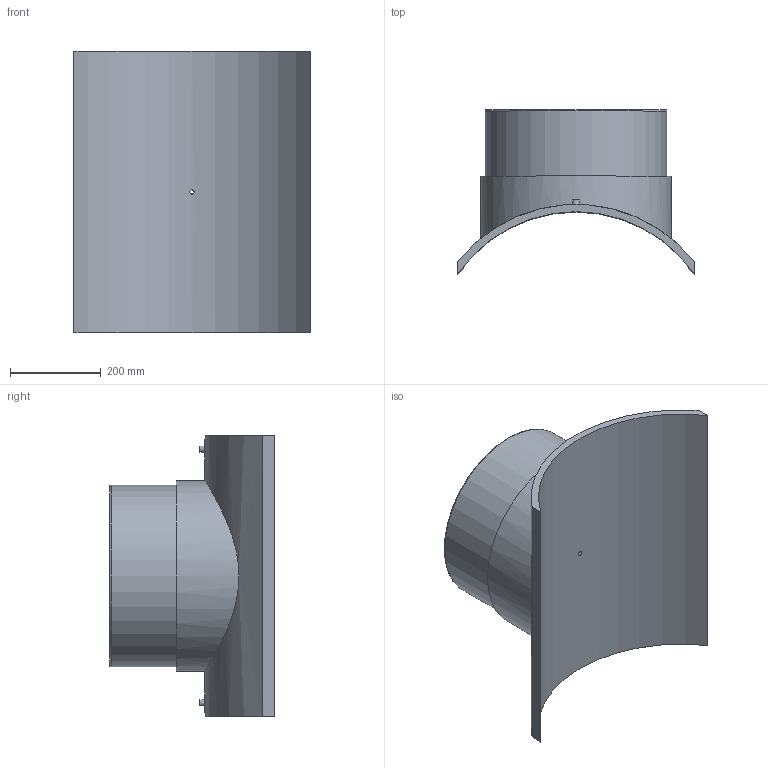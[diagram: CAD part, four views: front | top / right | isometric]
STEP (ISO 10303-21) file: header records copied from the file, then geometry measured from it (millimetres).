
FILE_DESCRIPTION(/* description */ ('PLASSON BRANCH SADDLE 630x400'),/* implementation_level */ '2;1');
FILE_NAME(/* name */ 'C:\Dropbox\KIMPROJECTS-Inventor 2019\99-16-3568-Processing\ElectroFusion Fittings\495803\stp\495803630400T.stp',/* time_stamp */ '2024-04-04T11:49:50+02:00',/* author */ ('KIM'),/* organization */ (''),/* preprocessor_version */ 'ST-DEVELOPER v17.2',/* originating_system */ 'Autodesk Inventor 2019',/* authorisation */ '');
FILE_SCHEMA (('AUTOMOTIVE_DESIGN { 1 0 10303 214 3 1 1 }'));
Length unit declared in the file: millimetre
Products named in the file (1): 495803630400T
Bounding box: 520 x 362.17 x 620 mm (x, y, z)
Volume: 17908537.2 mm3; surface area: 1350036.4 mm2
Topology: 1 solids, 1 shells, 29 faces, 60 edges, 43 vertices
Faces by surface type: plane 13, cylinder 12, torus 2, cone 2
Full cylindrical faces by diameter (mm): 4 x2, 9.6 x1, 10 x2, 16 x1, 320 x1, 400 x1, 420 x1
Entity records: 1126 total; most frequent: CARTESIAN_POINT 440, DIRECTION 139, ORIENTED_EDGE 120, EDGE_CURVE 60, AXIS2_PLACEMENT_3D 60, VERTEX_POINT 43, EDGE_LOOP 41, CIRCLE 30
